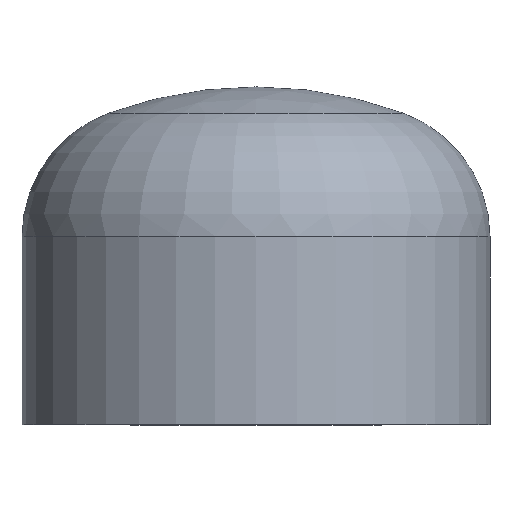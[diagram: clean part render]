
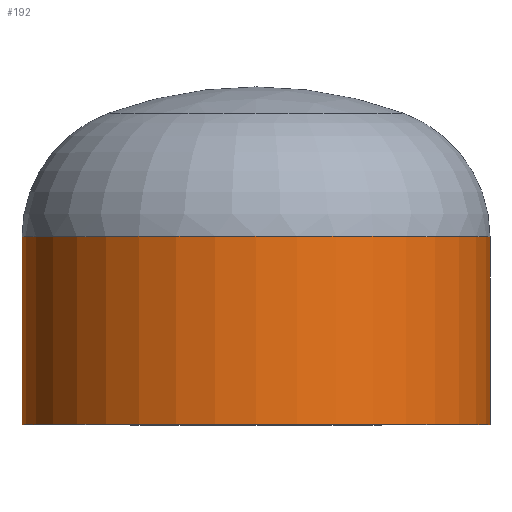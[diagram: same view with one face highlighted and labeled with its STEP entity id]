
A CAD part, top view. The second image highlights one B-rep face of the part: STEP entity #192.
In plain terms, the highlighted cylindrical face has radius 161.95 mm (diameter 323.9 mm), a partial arc.
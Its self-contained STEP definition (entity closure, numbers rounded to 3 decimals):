
#7 = AXIS2_PLACEMENT_3D ( 'NONE', #174, #55, #87 ) ;
#10 = ORIENTED_EDGE ( 'NONE', *, *, #344, .T. ) ;
#23 = ORIENTED_EDGE ( 'NONE', *, *, #318, .F. ) ;
#55 = DIRECTION ( 'NONE',  ( 0., -1., 0. ) ) ;
#62 = ORIENTED_EDGE ( 'NONE', *, *, #310, .F. ) ;
#67 = AXIS2_PLACEMENT_3D ( 'NONE', #268, #271, #169 ) ;
#84 = DIRECTION ( 'NONE',  ( 0., -1., 0. ) ) ;
#87 = DIRECTION ( 'NONE',  ( 1., 0., 0. ) ) ;
#103 = VERTEX_POINT ( 'NONE', #217 ) ;
#113 = ORIENTED_EDGE ( 'NONE', *, *, #322, .T. ) ;
#117 = EDGE_LOOP ( 'NONE', ( #10, #113, #23, #62 ) ) ;
#128 = VERTEX_POINT ( 'NONE', #195 ) ;
#131 = CARTESIAN_POINT ( 'NONE',  ( 0., 130., 0. ) ) ;
#132 = VERTEX_POINT ( 'NONE', #252 ) ;
#140 = CIRCLE ( 'NONE', #67, 161.95 ) ;
#156 = DIRECTION ( 'NONE',  ( 1., 0., 0. ) ) ;
#166 = AXIS2_PLACEMENT_3D ( 'NONE', #131, #299, #156 ) ;
#168 = DIRECTION ( 'NONE',  ( 0., -1., 0. ) ) ;
#169 = DIRECTION ( 'NONE',  ( 1., 0., 0. ) ) ;
#173 = CARTESIAN_POINT ( 'NONE',  ( -161.95, 0., 0. ) ) ;
#174 = CARTESIAN_POINT ( 'NONE',  ( 0., 0., 0. ) ) ;
#190 = VERTEX_POINT ( 'NONE', #173 ) ;
#192 = ADVANCED_FACE ( 'NONE', ( #346 ), #275, .T. ) ;
#195 = CARTESIAN_POINT ( 'NONE',  ( -161.95, 130., 0. ) ) ;
#196 = LINE ( 'NONE', #293, #380 ) ;
#214 = VECTOR ( 'NONE', #168, 1000. ) ;
#217 = CARTESIAN_POINT ( 'NONE',  ( 161.95, 130., 0. ) ) ;
#252 = CARTESIAN_POINT ( 'NONE',  ( 161.95, 0., 0. ) ) ;
#266 = LINE ( 'NONE', #411, #214 ) ;
#268 = CARTESIAN_POINT ( 'NONE',  ( 0., 0., 0. ) ) ;
#271 = DIRECTION ( 'NONE',  ( 0., -1., 0. ) ) ;
#275 = CYLINDRICAL_SURFACE ( 'NONE', #7, 161.95 ) ;
#293 = CARTESIAN_POINT ( 'NONE',  ( -161.95, 0., 0. ) ) ;
#299 = DIRECTION ( 'NONE',  ( 0., -1., 0. ) ) ;
#305 = CIRCLE ( 'NONE', #166, 161.95 ) ;
#310 = EDGE_CURVE ( 'NONE', #103, #132, #266, .T. ) ;
#318 = EDGE_CURVE ( 'NONE', #132, #190, #140, .T. ) ;
#322 = EDGE_CURVE ( 'NONE', #128, #190, #196, .T. ) ;
#344 = EDGE_CURVE ( 'NONE', #103, #128, #305, .T. ) ;
#346 = FACE_OUTER_BOUND ( 'NONE', #117, .T. ) ;
#380 = VECTOR ( 'NONE', #84, 1000. ) ;
#411 = CARTESIAN_POINT ( 'NONE',  ( 161.95, 0., 0. ) ) ;
